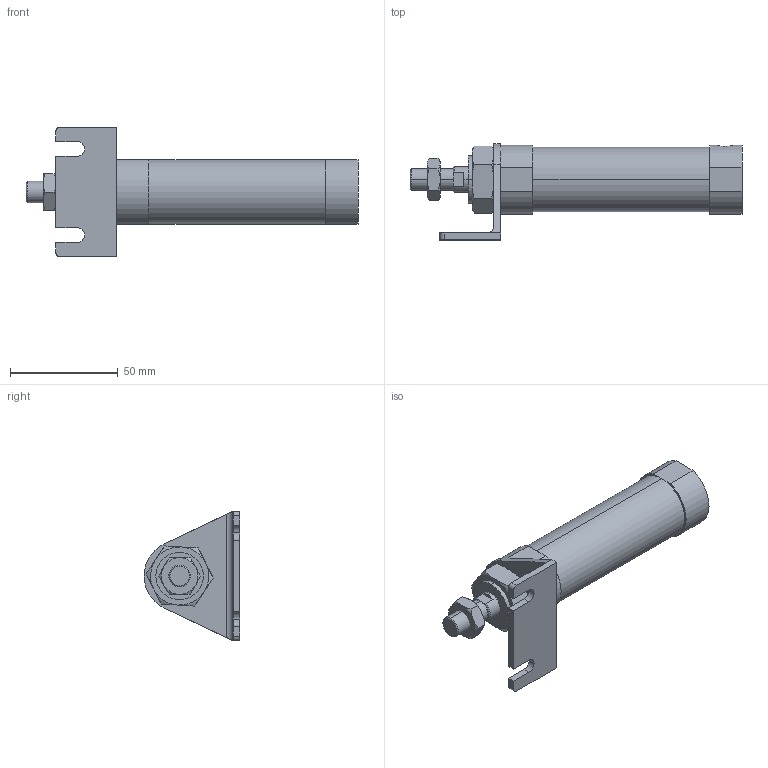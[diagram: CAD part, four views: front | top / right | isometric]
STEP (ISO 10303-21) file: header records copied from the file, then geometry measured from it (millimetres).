
FILE_DESCRIPTION (( 'STEP AP203' ), '1' );
FILE_NAME ('JGND1-25-25-L.STEP', '2016-08-04T02:16:12', ( '' ), ( '' ), 'SwSTEP 2.0', 'SolidWorks 2014', '' );
FILE_SCHEMA (( 'CONFIG_CONTROL_DESIGN' ));
Length unit declared in the file: millimetre
Products named in the file (5): J#1-25-25(P); JGND1-25-25-L; J#2-25-L
Assembly tree (4 placements, depth 2):
  JGND1-25-25-L
    J#1-25-25(P)
    (unnamed)
    (unnamed)
    J#2-25-L
Bounding box: 154 x 44.5 x 60 mm (x, y, z)
Volume: 101478.2 mm3; surface area: 24515.5 mm2
Topology: 4 solids, 4 shells, 111 faces, 258 edges, 157 vertices
Faces by surface type: plane 50, cylinder 31, torus 24, cone 6
Entity records: 3913 total; most frequent: CARTESIAN_POINT 911, DIRECTION 526, ORIENTED_EDGE 512, EDGE_CURVE 256, AXIS2_PLACEMENT_3D 208, VERTEX_POINT 157, EDGE_LOOP 121, ADVANCED_FACE 111
